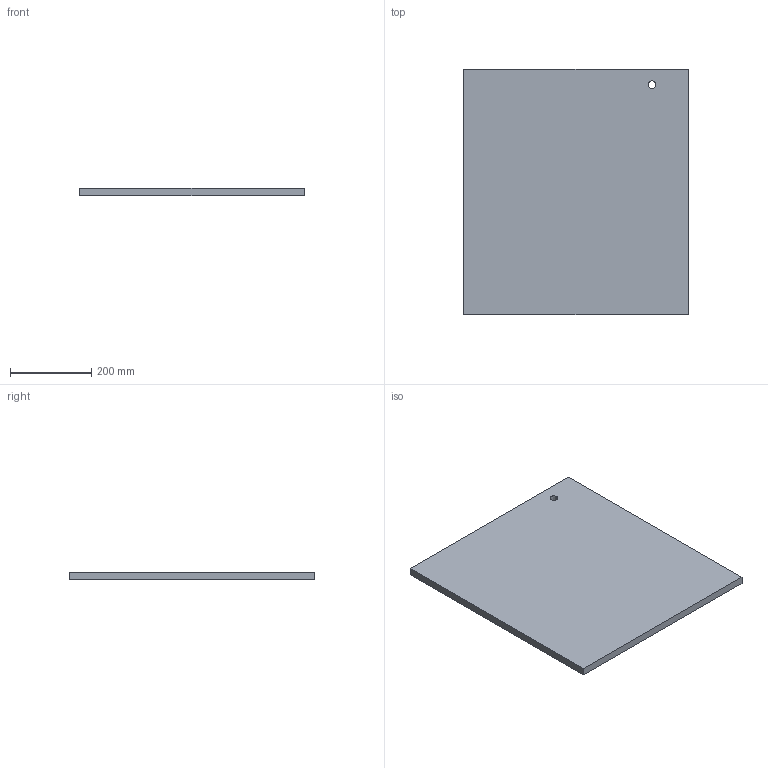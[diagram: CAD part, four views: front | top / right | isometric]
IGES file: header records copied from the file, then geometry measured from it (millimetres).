
Start section:  PTC IGES file: l5_23w_door_l.igs
Global section: file name: l5_23w_door_l.igs; native system: Creo Parametric by Parametric Technology Corporation; preprocessor: 2014310; author: apappas; organization: Unknown; date: 20150316.082820; units: inch
Bounding box: 552.45 x 604.84 x 19.05 mm (x, y, z)
Volume: 6333098 mm3; surface area: 717011.3 mm2
Topology: 1 solids, 1 shells, 26 faces, 54 edges, 36 vertices
Faces by surface type: bspline 26
